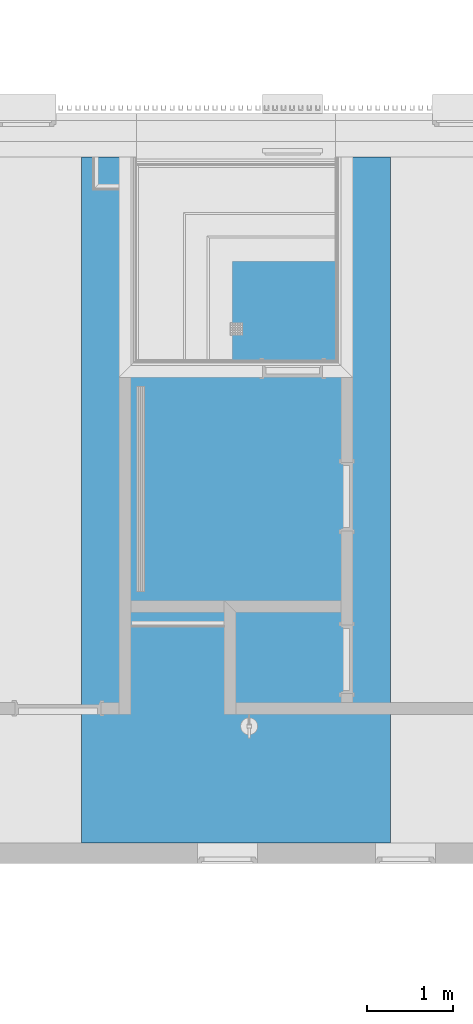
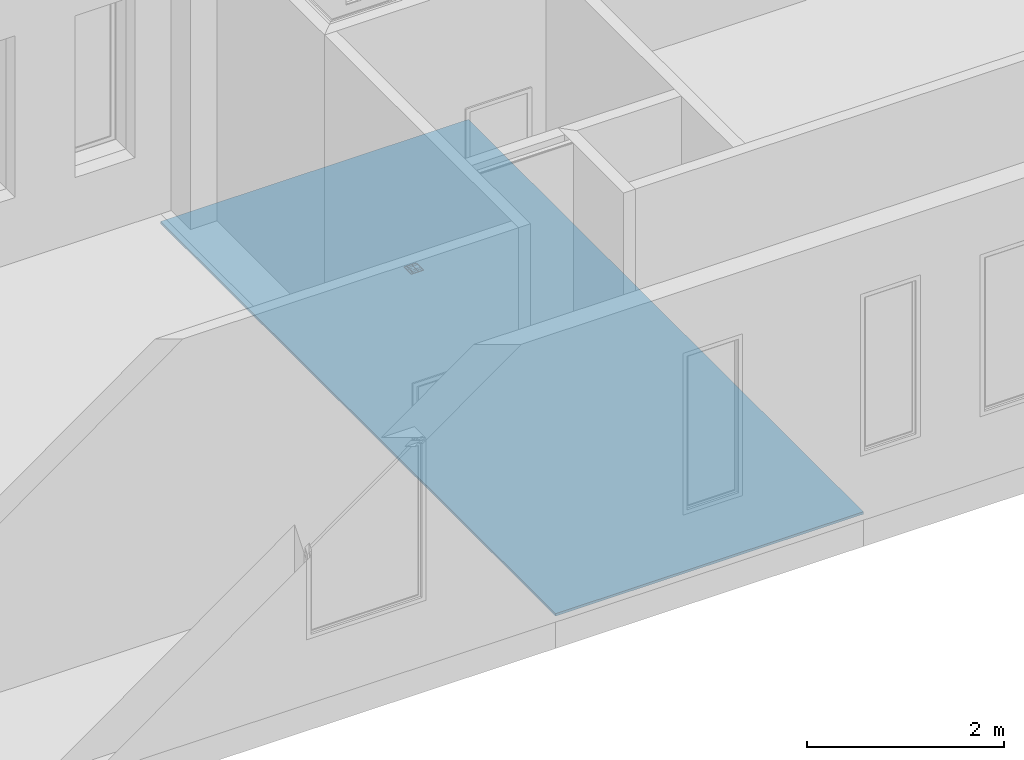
# One storey, part 63 of 100: 1 building element part, 1 element without a shape of its own.
"""IFC2X3 building model written with IfcOpenShell, lengths in millimetres."""

from ifc_helpers import new_model, entity, si_unit, converted_unit, derived_unit, money_unit, direction, frame, origin_with_axes, place, context, subcontext, project, spatial, polyline, outline, extrude, boolean, faceted_brep, material, type_object, element, aggregate, save


model = new_model("IFC2X3")

# Units and contexts
model_context = context("Model", 3, precision=0.01, world=origin_with_axes(), true_north=direction((0.0, 1.0)))
body_context = subcontext(model_context, "Body", "Model", "MODEL_VIEW")
ifc_project = project(units=[si_unit("LENGTHUNIT", "METRE", prefix="MILLI"), si_unit("AREAUNIT", "SQUARE_METRE"), si_unit("VOLUMEUNIT", "CUBIC_METRE"), converted_unit("PLANEANGLEUNIT", "DEGREE", entity("IfcPlaneAngleMeasure", 0.0174532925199), si_unit("PLANEANGLEUNIT", "RADIAN"), dimensions=[0, 0, 0, 0, 0, 0, 0]), si_unit("SOLIDANGLEUNIT", "STERADIAN"), money_unit("EUR"), converted_unit("TIMEUNIT", "Year", entity("IfcTimeMeasure", 31556926.0), si_unit("TIMEUNIT", "SECOND"), dimensions=[0, 0, 1, 0, 0, 0, 0]), si_unit("MASSUNIT", "GRAM", prefix="KILO"), si_unit("THERMODYNAMICTEMPERATUREUNIT", "DEGREE_CELSIUS"), si_unit("LUMINOUSINTENSITYUNIT", "LUMEN"), si_unit("ENERGYUNIT", "JOULE", prefix="MEGA"), derived_unit("THERMALCONDUCTANCEUNIT", [(si_unit("POWERUNIT", "WATT"), 1), (si_unit("LENGTHUNIT", "METRE"), -1), (si_unit("THERMODYNAMICTEMPERATUREUNIT", "KELVIN"), -1)]), derived_unit("SPECIFICHEATCAPACITYUNIT", [(si_unit("ENERGYUNIT", "JOULE"), 1), (si_unit("MASSUNIT", "GRAM", prefix="KILO"), -1), (si_unit("THERMODYNAMICTEMPERATUREUNIT", "KELVIN"), -1)]), derived_unit("MASSDENSITYUNIT", [(si_unit("MASSUNIT", "GRAM", prefix="KILO"), 1), (si_unit("VOLUMEUNIT", "CUBIC_METRE"), -1)])], contexts=[model_context])

# Site, building, storey
site_placement = place(None, origin_with_axes())
site = spatial("IfcSite", under=ifc_project, at=site_placement, Name="Politse- ja Piirivalveameti ning Päästeameti ühishoone", CompositionType="ELEMENT")
building_placement = place(site_placement, origin_with_axes())
building = spatial("IfcBuilding", under=site, at=building_placement, Name="Politse- ja Piirivalveameti ning Päästeameti ühishoone", CompositionType="ELEMENT")
storey_placement = place(building_placement, frame((0.0, 0.0, 3800.0), z_axis=(0.0, 0.0, 1.0), x_axis=(1.0, 0.0, 0.0)))
storey = spatial("IfcBuildingStorey", under=building, at=storey_placement, Name="Teine korrus", CompositionType="ELEMENT", Elevation=3800.0)

# Slab, building element part
slab_type = type_object("IfcSlabType", Name="VL-05_Vahelagi   400 paneel 520", PredefinedType="NOTDEFINED")
slab_placement = place(storey_placement, frame((42610.0318541, 13000.0198611, 0.0), z_axis=(0.0, 0.0, 1.0), x_axis=(1.0, 0.0, 0.0)))
slab = element("IfcSlab", 1, at=slab_placement, inside=storey, type_object=slab_type, Name="VL-05", PredefinedType="NOTDEFINED")
ifc_material = material(Name="SOJ-04_Soojustus - Mineraal Kõva")
building_element_part_placement = place(slab_placement, origin_with_axes())
building_element_part = element("IfcBuildingElementPart", 2, at=building_element_part_placement, material=ifc_material, Name="SOJ-04_Soojustus - Mineraal Kõva", context=body_context, shape_type="CSG", body=[
    boolean("DIFFERENCE", boolean("DIFFERENCE", boolean("DIFFERENCE", extrude(outline(polyline([(0.0, 0.0), (3599.96251087, 0.0), (3599.99627145, 7999.8850733), (-0.00384055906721, 7999.87354941), (0.0, 0.0)])), frame((0.0, 0.0, -120.0), z_axis=(0.0, 0.0, 1.0), x_axis=(1.0, 0.0, 0.0)), (0.0, 0.0, 1.0), 30.0), faceted_brep([(1730.20181919, 5919.88844434, -90.0), (1880.20181919, 5919.88844434, -90.0), (1880.20181919, 6069.88844434, -90.0), (1730.20181919, 6069.88844434, -90.0), (1849.70181919, 6039.38844434, -90.0), (1849.70181919, 6064.88844434, -90.0), (1875.20181919, 6064.88844434, -90.0), (1875.20181919, 6039.38844434, -90.0), (1849.70181919, 6010.38844434, -90.0), (1849.70181919, 6037.38844434, -90.0), (1875.20181919, 6037.38844434, -90.0), (1875.20181919, 6010.38844434, -90.0), (1849.70181919, 5981.38844434, -90.0), (1849.70181919, 6008.38844434, -90.0), (1875.20181919, 6008.38844434, -90.0), (1875.20181919, 5981.38844434, -90.0), (1849.70181919, 5952.38844434, -90.0), (1849.70181919, 5979.38844434, -90.0), (1875.20181919, 5979.38844434, -90.0), (1875.20181919, 5952.38844434, -90.0), (1820.70181919, 6039.38844434, -90.0), (1820.70181919, 6064.88844434, -90.0), (1847.70181919, 6064.88844434, -90.0), (1847.70181919, 6039.38844434, -90.0), (1820.70181919, 6010.38844434, -90.0), (1820.70181919, 6037.38844434, -90.0), (1847.70181919, 6037.38844434, -90.0), (1847.70181919, 6010.38844434, -90.0), (1820.70181919, 5981.38844434, -90.0), (1820.70181919, 6008.38844434, -90.0), (1847.70181919, 6008.38844434, -90.0), (1847.70181919, 5981.38844434, -90.0), (1820.70181919, 5952.38844434, -90.0), (1820.70181919, 5979.38844434, -90.0), (1847.70181919, 5979.38844434, -90.0), (1847.70181919, 5952.38844434, -90.0), (1791.70181919, 6039.38844434, -90.0), (1791.70181889, 6064.88844434, -90.0), (1818.70181919, 6064.88844434, -90.0), (1818.70181919, 6039.38844434, -90.0), (1791.70181919, 6010.38844434, -90.0), (1791.70181919, 6037.38844434, -90.0), (1818.70181919, 6037.38844434, -90.0), (1818.70181919, 6010.38844434, -90.0), (1791.70181919, 5981.38844434, -90.0), (1791.70181919, 6008.38844434, -90.0), (1818.70181919, 6008.38844434, -90.0), (1818.70181919, 5981.38844434, -90.0), (1791.70181919, 5952.38844434, -90.0), (1791.70181919, 5979.38844434, -90.0), (1818.70181919, 5979.38844434, -90.0), (1818.70181919, 5952.38844434, -90.0), (1762.70181919, 6039.38844434, -90.0), (1762.70181889, 6064.88844434, -90.0), (1789.70181919, 6064.88844434, -90.0), (1789.70181919, 6039.38844434, -90.0), (1762.70181919, 6010.38844434, -90.0), (1762.70181919, 6037.38844434, -90.0), (1789.70181919, 6037.38844434, -90.0), (1789.70181919, 6010.38844434, -90.0), (1762.70181919, 5981.38844434, -90.0), (1762.70181919, 6008.38844434, -90.0), (1789.70181919, 6008.38844434, -90.0), (1789.70181919, 5981.38844434, -90.0), (1762.70181919, 5952.38844434, -90.0), (1762.70181919, 5979.38844434, -90.0), (1789.70181919, 5979.38844434, -90.0), (1789.70181919, 5952.38844434, -90.0), (1735.20181919, 6039.38844434, -90.0), (1735.20181919, 6064.88844434, -90.0), (1760.70181919, 6064.88844434, -90.0), (1760.70181919, 6039.38844434, -90.0), (1735.20181919, 6010.38844434, -90.0), (1735.20181919, 6037.38844434, -90.0), (1760.70181919, 6037.38844434, -90.0), (1760.70181919, 6010.38844434, -90.0), (1735.20181919, 5981.38844434, -90.0), (1735.20181919, 6008.38844434, -90.0), (1760.70181919, 6008.38844434, -90.0), (1760.70181919, 5981.38844434, -90.0), (1735.20181919, 5952.38844434, -90.0), (1735.20181919, 5979.38844434, -90.0), (1760.70181919, 5979.38844434, -90.0), (1760.70181919, 5952.38844434, -90.0), (1735.20181919, 5924.88844434, -90.0), (1735.20181919, 5950.38844434, -90.0), (1760.70181919, 5950.38844434, -90.0), (1760.70181919, 5924.88844434, -90.0), (1762.70181919, 5924.88844434, -90.0), (1762.70181919, 5950.38844434, -90.0), (1789.70181919, 5950.38844434, -90.0), (1789.70181919, 5924.88844434, -90.0), (1791.70181919, 5924.88844434, -90.0), (1791.70181919, 5950.38844434, -90.0), (1818.70181919, 5950.38844434, -90.0), (1818.70181919, 5924.88844434, -90.0), (1820.70181919, 5924.88844434, -90.0), (1820.70181919, 5950.38844434, -90.0), (1847.70181919, 5950.38844434, -90.0), (1847.70181919, 5924.88844434, -90.0), (1849.70181919, 5924.88844434, -90.0), (1849.70181919, 5950.38844434, -90.0), (1875.20181919, 5950.38844434, -90.0), (1875.20181919, 5924.88844434, -90.0), (1730.20181919, 5919.88844434, -100.0), (1880.20181919, 5919.88844434, -100.0), (1880.20181919, 6069.88844434, -100.0), (1730.20181919, 6069.88844434, -100.0), (1849.70181919, 6039.38844434, -100.0), (1849.70181919, 6064.88844434, -100.0), (1875.20181919, 6064.88844434, -100.0), (1875.20181919, 6039.38844434, -100.0), (1849.70181919, 6010.38844434, -100.0), (1849.70181919, 6037.38844434, -100.0), (1875.20181919, 6037.38844434, -100.0), (1875.20181919, 6010.38844434, -100.0), (1849.70181919, 5981.38844434, -100.0), (1849.70181919, 6008.38844434, -100.0), (1875.20181919, 6008.38844434, -100.0), (1875.20181919, 5981.38844434, -100.0), (1849.70181919, 5952.38844434, -100.0), (1849.70181919, 5979.38844434, -100.0), (1875.20181919, 5979.38844434, -100.0), (1875.20181919, 5952.38844434, -100.0), (1820.70181919, 6039.38844434, -100.0), (1820.70181919, 6064.88844434, -100.0), (1847.70181919, 6064.88844434, -100.0), (1847.70181919, 6039.38844434, -100.0), (1820.70181919, 6010.38844434, -100.0), (1820.70181919, 6037.38844434, -100.0), (1847.70181919, 6037.38844434, -100.0), (1847.70181919, 6010.38844434, -100.0), (1820.70181919, 5981.38844434, -100.0), (1820.70181919, 6008.38844434, -100.0), (1847.70181919, 6008.38844434, -100.0), (1847.70181919, 5981.38844434, -100.0), (1820.70181919, 5952.38844434, -100.0), (1820.70181919, 5979.38844434, -100.0), (1847.70181919, 5979.38844434, -100.0), (1847.70181919, 5952.38844434, -100.0), (1791.70181919, 6039.38844434, -100.0), (1791.70181889, 6064.88844434, -100.0), (1818.70181919, 6064.88844434, -100.0), (1818.70181919, 6039.38844434, -100.0), (1791.70181919, 6010.38844434, -100.0), (1791.70181919, 6037.38844434, -100.0), (1818.70181919, 6037.38844434, -100.0), (1818.70181919, 6010.38844434, -100.0), (1791.70181919, 5981.38844434, -100.0), (1791.70181919, 6008.38844434, -100.0), (1818.70181919, 6008.38844434, -100.0), (1818.70181919, 5981.38844434, -100.0), (1791.70181919, 5952.38844434, -100.0), (1791.70181919, 5979.38844434, -100.0), (1818.70181919, 5979.38844434, -100.0), (1818.70181919, 5952.38844434, -100.0), (1762.70181919, 6039.38844434, -100.0), (1762.70181889, 6064.88844434, -100.0), (1789.70181919, 6064.88844434, -100.0), (1789.70181919, 6039.38844434, -100.0), (1762.70181919, 6010.38844434, -100.0), (1762.70181919, 6037.38844434, -100.0), (1789.70181919, 6037.38844434, -100.0), (1789.70181919, 6010.38844434, -100.0), (1762.70181919, 5981.38844434, -100.0), (1762.70181919, 6008.38844434, -100.0), (1789.70181919, 6008.38844434, -100.0), (1789.70181919, 5981.38844434, -100.0), (1762.70181919, 5952.38844434, -100.0), (1762.70181919, 5979.38844434, -100.0), (1789.70181919, 5979.38844434, -100.0), (1789.70181919, 5952.38844434, -100.0), (1735.20181919, 6039.38844434, -100.0), (1735.20181919, 6064.88844434, -100.0), (1760.70181919, 6064.88844434, -100.0), (1760.70181919, 6039.38844434, -100.0), (1735.20181919, 6010.38844434, -100.0), (1735.20181919, 6037.38844434, -100.0), (1760.70181919, 6037.38844434, -100.0), (1760.70181919, 6010.38844434, -100.0), (1735.20181919, 5981.38844434, -100.0), (1735.20181919, 6008.38844434, -100.0), (1760.70181919, 6008.38844434, -100.0), (1760.70181919, 5981.38844434, -100.0), (1735.20181919, 5952.38844434, -100.0), (1735.20181919, 5979.38844434, -100.0), (1760.70181919, 5979.38844434, -100.0), (1760.70181919, 5952.38844434, -100.0), (1735.20181919, 5924.88844434, -100.0), (1735.20181919, 5950.38844434, -100.0), (1760.70181919, 5950.38844434, -100.0), (1760.70181919, 5924.88844434, -100.0), (1762.70181919, 5924.88844434, -100.0), (1762.70181919, 5950.38844434, -100.0), (1789.70181919, 5950.38844434, -100.0), (1789.70181919, 5924.88844434, -100.0), (1791.70181919, 5924.88844434, -100.0), (1791.70181919, 5950.38844434, -100.0), (1818.70181919, 5950.38844434, -100.0), (1818.70181919, 5924.88844434, -100.0), (1820.70181919, 5924.88844434, -100.0), (1820.70181919, 5950.38844434, -100.0), (1847.70181919, 5950.38844434, -100.0), (1847.70181919, 5924.88844434, -100.0), (1849.70181919, 5924.88844434, -100.0), (1849.70181919, 5950.38844434, -100.0), (1875.20181919, 5950.38844434, -100.0), (1875.20181919, 5924.88844434, -100.0)], [[[0, 1, 2, 3], [4, 5, 6, 7], [8, 9, 10, 11], [12, 13, 14, 15], [16, 17, 18, 19], [20, 21, 22, 23], [24, 25, 26, 27], [28, 29, 30, 31], [32, 33, 34, 35], [36, 37, 38, 39], [40, 41, 42, 43], [44, 45, 46, 47], [48, 49, 50, 51], [52, 53, 54, 55], [56, 57, 58, 59], [60, 61, 62, 63], [64, 65, 66, 67], [68, 69, 70, 71], [72, 73, 74, 75], [76, 77, 78, 79], [80, 81, 82, 83], [84, 85, 86, 87], [88, 89, 90, 91], [92, 93, 94, 95], [96, 97, 98, 99], [100, 101, 102, 103]], [[1, 0, 104, 105]], [[2, 1, 105, 106]], [[3, 2, 106, 107]], [[0, 3, 107, 104]], [[5, 4, 108, 109]], [[6, 5, 109, 110]], [[7, 6, 110, 111]], [[4, 7, 111, 108]], [[9, 8, 112, 113]], [[10, 9, 113, 114]], [[11, 10, 114, 115]], [[8, 11, 115, 112]], [[13, 12, 116, 117]], [[14, 13, 117, 118]], [[15, 14, 118, 119]], [[12, 15, 119, 116]], [[17, 16, 120, 121]], [[18, 17, 121, 122]], [[19, 18, 122, 123]], [[16, 19, 123, 120]], [[21, 20, 124, 125]], [[22, 21, 125, 126]], [[23, 22, 126, 127]], [[20, 23, 127, 124]], [[25, 24, 128, 129]], [[26, 25, 129, 130]], [[27, 26, 130, 131]], [[24, 27, 131, 128]], [[29, 28, 132, 133]], [[30, 29, 133, 134]], [[31, 30, 134, 135]], [[28, 31, 135, 132]], [[33, 32, 136, 137]], [[34, 33, 137, 138]], [[35, 34, 138, 139]], [[32, 35, 139, 136]], [[37, 36, 140, 141]], [[38, 37, 141, 142]], [[39, 38, 142, 143]], [[36, 39, 143, 140]], [[41, 40, 144, 145]], [[42, 41, 145, 146]], [[43, 42, 146, 147]], [[40, 43, 147, 144]], [[45, 44, 148, 149]], [[46, 45, 149, 150]], [[47, 46, 150, 151]], [[44, 47, 151, 148]], [[49, 48, 152, 153]], [[50, 49, 153, 154]], [[51, 50, 154, 155]], [[48, 51, 155, 152]], [[53, 52, 156, 157]], [[54, 53, 157, 158]], [[55, 54, 158, 159]], [[52, 55, 159, 156]], [[57, 56, 160, 161]], [[58, 57, 161, 162]], [[59, 58, 162, 163]], [[56, 59, 163, 160]], [[61, 60, 164, 165]], [[62, 61, 165, 166]], [[63, 62, 166, 167]], [[60, 63, 167, 164]], [[65, 64, 168, 169]], [[66, 65, 169, 170]], [[67, 66, 170, 171]], [[64, 67, 171, 168]], [[69, 68, 172, 173]], [[70, 69, 173, 174]], [[71, 70, 174, 175]], [[68, 71, 175, 172]], [[73, 72, 176, 177]], [[74, 73, 177, 178]], [[75, 74, 178, 179]], [[72, 75, 179, 176]], [[77, 76, 180, 181]], [[78, 77, 181, 182]], [[79, 78, 182, 183]], [[76, 79, 183, 180]], [[81, 80, 184, 185]], [[82, 81, 185, 186]], [[83, 82, 186, 187]], [[80, 83, 187, 184]], [[85, 84, 188, 189]], [[86, 85, 189, 190]], [[87, 86, 190, 191]], [[84, 87, 191, 188]], [[89, 88, 192, 193]], [[90, 89, 193, 194]], [[91, 90, 194, 195]], [[88, 91, 195, 192]], [[93, 92, 196, 197]], [[94, 93, 197, 198]], [[95, 94, 198, 199]], [[92, 95, 199, 196]], [[97, 96, 200, 201]], [[98, 97, 201, 202]], [[99, 98, 202, 203]], [[96, 99, 203, 200]], [[101, 100, 204, 205]], [[102, 101, 205, 206]], [[103, 102, 206, 207]], [[100, 103, 207, 204]], [[107, 173, 172, 177, 176, 181, 180, 185, 184, 189, 188, 191, 192, 195, 196, 199, 200, 203, 204, 207, 206, 123, 122, 119, 118, 115, 114, 111, 110, 106, 105, 104]], [[173, 107, 106, 110, 109, 108, 113, 112, 117, 116, 121, 120, 205, 204, 203, 202, 139, 138, 135, 134, 131, 130, 127, 126, 125, 124, 129, 128, 133, 132, 137, 136, 201, 200, 199, 198, 155, 154, 151, 150, 147, 146, 143, 142, 141, 140, 145, 144, 149, 148, 153, 152, 197, 196, 195, 194, 171, 170, 167, 166, 163, 162, 159, 158, 157, 156, 161, 160, 165, 164, 169, 168, 193, 192, 191, 190, 187, 186, 183, 182, 179, 178, 175, 174]], [[114, 113, 108, 111]], [[117, 112, 115, 118]], [[122, 121, 116, 119]], [[206, 205, 120, 123]], [[130, 129, 124, 127]], [[133, 128, 131, 134]], [[138, 137, 132, 135]], [[201, 136, 139, 202]], [[145, 140, 143, 146]], [[150, 149, 144, 147]], [[154, 153, 148, 151]], [[197, 152, 155, 198]], [[159, 162, 161, 156]], [[166, 165, 160, 163]], [[170, 169, 164, 167]], [[171, 194, 193, 168]], [[175, 178, 177, 172]], [[179, 182, 181, 176]], [[183, 186, 185, 180]], [[187, 190, 189, 184]]])), faceted_brep([(638.379615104, 2928.96744272, 0.0), (738.379615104, 2928.96744272, 0.0), (738.379615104, 5328.96744272, 0.0), (638.379615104, 5328.96744272, 0.0), (638.379615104, 2928.96744272, -50.0), (738.379615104, 2928.96744272, -50.0), (738.379615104, 5328.96744272, -50.0), (638.379615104, 5328.96744272, -50.0), (643.379615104, 5323.96744272, -50.0), (643.379615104, 4129.96744272, -50.0), (643.379615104, 4127.96744272, -50.0), (643.379615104, 2933.96744272, -50.0), (663.629615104, 2933.96744272, -50.0), (665.629615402, 2933.96744272, -50.0), (687.379615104, 2933.96744272, -50.0), (689.379615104, 2933.96744272, -50.0), (711.129615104, 2933.96744272, -50.0), (713.129615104, 2933.96744272, -50.0), (733.379615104, 2933.96744272, -50.0), (733.379615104, 4127.96744272, -50.0), (733.379615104, 4129.96744272, -50.0), (733.379615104, 5323.96744272, -50.0), (713.129615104, 5323.96744272, -50.0), (713.129615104, 4129.96744272, -50.0), (713.129615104, 4127.96744272, -50.0), (711.129615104, 4127.96744272, -50.0), (711.129615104, 4129.96744272, -50.0), (711.129615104, 5323.96744272, -50.0), (689.379615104, 5323.96744272, -50.0), (689.379615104, 4129.96744272, -50.0), (689.379615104, 4127.96744272, -50.0), (687.379615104, 4127.96744272, -50.0), (687.379615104, 4129.96744272, -50.0), (687.379615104, 5323.96744272, -50.0), (665.629615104, 5323.96744272, -50.0), (665.629615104, 4129.96744272, -50.0), (665.629615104, 4127.96744272, -50.0), (663.629615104, 4127.96744272, -50.0), (663.629615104, 4129.96744272, -50.0), (663.629615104, 5323.96744272, -50.0), (643.379615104, 5323.96744272, -31.35), (643.379615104, 4129.96744272, -31.35), (643.379615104, 4127.96744272, -31.35), (643.379615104, 2933.96744272, -31.35), (663.629615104, 2933.96744272, -31.35), (665.629615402, 2933.96744272, -31.35), (687.379615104, 2933.96744272, -31.35), (689.379615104, 2933.96744272, -31.35), (711.129615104, 2933.96744272, -31.35), (713.129615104, 2933.96744272, -31.35), (733.379615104, 2933.96744272, -31.35), (733.379615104, 4127.96744272, -31.35), (733.379615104, 4129.96744272, -31.35), (733.379615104, 5323.96744272, -31.35), (713.129615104, 5323.96744272, -31.35), (713.129615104, 4129.96744272, -31.35), (713.129615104, 4127.96744272, -31.35), (711.129615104, 4127.96744272, -31.35), (711.129615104, 4129.96744272, -31.35), (711.129615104, 5323.96744272, -31.35), (689.379615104, 5323.96744272, -31.35), (689.379615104, 4129.96744272, -31.35), (689.379615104, 4127.96744272, -31.35), (687.379615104, 4127.96744272, -31.35), (687.379615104, 4129.96744272, -31.35), (687.379615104, 5323.96744272, -31.35), (665.629615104, 5323.96744272, -31.35), (665.629615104, 4129.96744272, -31.35), (665.629615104, 4127.96744272, -31.35), (663.629615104, 4127.96744272, -31.35), (663.629615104, 4129.96744272, -31.35), (663.629615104, 5323.96744272, -31.35)], [[[0, 1, 2, 3]], [[1, 0, 4, 5]], [[2, 1, 5, 6]], [[3, 2, 6, 7]], [[0, 3, 7, 4]], [[7, 8, 9, 10, 11, 12, 13, 14, 15, 16, 17, 18, 19, 20, 21, 6, 5, 4]], [[8, 7, 6, 21, 22, 23, 24, 17, 16, 25, 26, 27, 28, 29, 30, 15, 14, 31, 32, 33, 34, 35, 36, 13, 12, 37, 38, 39]], [[8, 40, 41, 9]], [[10, 9, 38, 37]], [[10, 42, 43, 11]], [[11, 43, 44, 12]], [[13, 45, 46, 14]], [[15, 47, 48, 16]], [[17, 49, 50, 18]], [[18, 50, 51, 19]], [[24, 23, 20, 19]], [[20, 52, 53, 21]], [[54, 22, 21, 53]], [[22, 54, 55, 23]], [[49, 17, 24, 56]], [[16, 48, 57, 25]], [[25, 30, 29, 26]], [[26, 58, 59, 27]], [[60, 28, 27, 59]], [[28, 60, 61, 29]], [[47, 15, 30, 62]], [[63, 31, 14, 46]], [[36, 35, 32, 31]], [[32, 64, 65, 33]], [[66, 34, 33, 65]], [[34, 66, 67, 35]], [[36, 68, 45, 13]], [[69, 37, 12, 44]], [[38, 70, 71, 39]], [[40, 8, 39, 71]], [[41, 40, 71, 70]], [[9, 41, 70, 38]], [[42, 10, 37, 69]], [[43, 42, 69, 44]], [[68, 63, 46, 45]], [[48, 47, 62, 57]], [[50, 49, 56, 51]], [[56, 24, 19, 51]], [[23, 55, 52, 20]], [[52, 55, 54, 53]], [[62, 30, 25, 57]], [[29, 61, 58, 26]], [[61, 60, 59, 58]], [[68, 36, 31, 63]], [[35, 67, 64, 32]], [[64, 67, 66, 65]]])), faceted_brep([(1730.20181919, 5919.88844434, -90.0), (1730.20181919, 6069.88844434, -90.0), (1880.20181919, 6069.88844434, -90.0), (1880.20181919, 5919.88844434, -90.0), (1849.70181919, 6039.38844434, -90.0), (1875.20181919, 6039.38844434, -90.0), (1875.20181919, 6064.88844434, -90.0), (1849.70181919, 6064.88844434, -90.0), (1849.70181919, 6010.38844434, -90.0), (1875.20181919, 6010.38844434, -90.0), (1875.20181919, 6037.38844434, -90.0), (1849.70181919, 6037.38844434, -90.0), (1849.70181919, 5981.38844434, -90.0), (1875.20181919, 5981.38844434, -90.0), (1875.20181919, 6008.38844434, -90.0), (1849.70181919, 6008.38844434, -90.0), (1849.70181919, 5952.38844434, -90.0), (1875.20181919, 5952.38844434, -90.0), (1875.20181919, 5979.38844434, -90.0), (1849.70181919, 5979.38844434, -90.0), (1820.70181919, 6039.38844434, -90.0), (1847.70181919, 6039.38844434, -90.0), (1847.70181919, 6064.88844434, -90.0), (1820.70181919, 6064.88844434, -90.0), (1820.70181919, 6010.38844434, -90.0), (1847.70181919, 6010.38844434, -90.0), (1847.70181919, 6037.38844434, -90.0), (1820.70181919, 6037.38844434, -90.0), (1820.70181919, 5981.38844434, -90.0), (1847.70181919, 5981.38844434, -90.0), (1847.70181919, 6008.38844434, -90.0), (1820.70181919, 6008.38844434, -90.0), (1820.70181919, 5952.38844434, -90.0), (1847.70181919, 5952.38844434, -90.0), (1847.70181919, 5979.38844434, -90.0), (1820.70181919, 5979.38844434, -90.0), (1791.70181919, 6039.38844434, -90.0), (1818.70181919, 6039.38844434, -90.0), (1818.70181919, 6064.88844434, -90.0), (1791.70181889, 6064.88844434, -90.0), (1791.70181919, 6010.38844434, -90.0), (1818.70181919, 6010.38844434, -90.0), (1818.70181919, 6037.38844434, -90.0), (1791.70181919, 6037.38844434, -90.0), (1791.70181919, 5981.38844434, -90.0), (1818.70181919, 5981.38844434, -90.0), (1818.70181919, 6008.38844434, -90.0), (1791.70181919, 6008.38844434, -90.0), (1791.70181919, 5952.38844434, -90.0), (1818.70181919, 5952.38844434, -90.0), (1818.70181919, 5979.38844434, -90.0), (1791.70181919, 5979.38844434, -90.0), (1762.70181919, 6039.38844434, -90.0), (1789.70181919, 6039.38844434, -90.0), (1789.70181919, 6064.88844434, -90.0), (1762.70181889, 6064.88844434, -90.0), (1762.70181919, 6010.38844434, -90.0), (1789.70181919, 6010.38844434, -90.0), (1789.70181919, 6037.38844434, -90.0), (1762.70181919, 6037.38844434, -90.0), (1762.70181919, 5981.38844434, -90.0), (1789.70181919, 5981.38844434, -90.0), (1789.70181919, 6008.38844434, -90.0), (1762.70181919, 6008.38844434, -90.0), (1762.70181919, 5952.38844434, -90.0), (1789.70181919, 5952.38844434, -90.0), (1789.70181919, 5979.38844434, -90.0), (1762.70181919, 5979.38844434, -90.0), (1735.20181919, 6039.38844434, -90.0), (1760.70181919, 6039.38844434, -90.0), (1760.70181919, 6064.88844434, -90.0), (1735.20181919, 6064.88844434, -90.0), (1735.20181919, 6010.38844434, -90.0), (1760.70181919, 6010.38844434, -90.0), (1760.70181919, 6037.38844434, -90.0), (1735.20181919, 6037.38844434, -90.0), (1735.20181919, 5981.38844434, -90.0), (1760.70181919, 5981.38844434, -90.0), (1760.70181919, 6008.38844434, -90.0), (1735.20181919, 6008.38844434, -90.0), (1735.20181919, 5952.38844434, -90.0), (1760.70181919, 5952.38844434, -90.0), (1760.70181919, 5979.38844434, -90.0), (1735.20181919, 5979.38844434, -90.0), (1735.20181919, 5924.88844434, -90.0), (1760.70181919, 5924.88844434, -90.0), (1760.70181919, 5950.38844434, -90.0), (1735.20181919, 5950.38844434, -90.0), (1762.70181919, 5924.88844434, -90.0), (1789.70181919, 5924.88844434, -90.0), (1789.70181919, 5950.38844434, -90.0), (1762.70181919, 5950.38844434, -90.0), (1791.70181919, 5924.88844434, -90.0), (1818.70181919, 5924.88844434, -90.0), (1818.70181919, 5950.38844434, -90.0), (1791.70181919, 5950.38844434, -90.0), (1820.70181919, 5924.88844434, -90.0), (1847.70181919, 5924.88844434, -90.0), (1847.70181919, 5950.38844434, -90.0), (1820.70181919, 5950.38844434, -90.0), (1849.70181919, 5924.88844434, -90.0), (1875.20181919, 5924.88844434, -90.0), (1875.20181919, 5950.38844434, -90.0), (1849.70181919, 5950.38844434, -90.0), (1730.20181919, 5919.88844434, 0.0), (1730.20181919, 6069.88844434, 0.0), (1880.20181919, 6069.88844434, 0.0), (1880.20181919, 5919.88844434, 0.0), (1849.70181919, 6039.38844434, -56.35), (1875.20181919, 6039.38844434, -56.35), (1875.20181919, 6064.88844434, -56.35), (1849.70181919, 6064.88844434, -56.35), (1849.70181919, 6010.38844434, -56.35), (1875.20181919, 6010.38844434, -56.35), (1875.20181919, 6037.38844434, -56.35), (1849.70181919, 6037.38844434, -56.35), (1849.70181919, 5981.38844434, -56.35), (1875.20181919, 5981.38844434, -56.35), (1875.20181919, 6008.38844434, -56.35), (1849.70181919, 6008.38844434, -56.35), (1849.70181919, 5952.38844434, -56.35), (1875.20181919, 5952.38844434, -56.35), (1875.20181919, 5979.38844434, -56.35), (1849.70181919, 5979.38844434, -56.35), (1820.70181919, 6039.38844434, -56.35), (1847.70181919, 6039.38844434, -56.35), (1847.70181919, 6064.88844434, -56.35), (1820.70181919, 6064.88844434, -56.35), (1820.70181919, 6010.38844434, -56.35), (1847.70181919, 6010.38844434, -56.35), (1847.70181919, 6037.38844434, -56.35), (1820.70181919, 6037.38844434, -56.35), (1820.70181919, 5981.38844434, -56.35), (1847.70181919, 5981.38844434, -56.35), (1847.70181919, 6008.38844434, -56.35), (1820.70181919, 6008.38844434, -56.35), (1820.70181919, 5952.38844434, -56.35), (1847.70181919, 5952.38844434, -56.35), (1847.70181919, 5979.38844434, -56.35), (1820.70181919, 5979.38844434, -56.35), (1791.70181919, 6039.38844434, -56.35), (1818.70181919, 6039.38844434, -56.35), (1818.70181919, 6064.88844434, -56.35), (1791.70181889, 6064.88844434, -56.35), (1791.70181919, 6010.38844434, -56.35), (1818.70181919, 6010.38844434, -56.35), (1818.70181919, 6037.38844434, -56.35), (1791.70181919, 6037.38844434, -56.35), (1791.70181919, 5981.38844434, -56.35), (1818.70181919, 5981.38844434, -56.35), (1818.70181919, 6008.38844434, -56.35), (1791.70181919, 6008.38844434, -56.35), (1791.70181919, 5952.38844434, -56.35), (1818.70181919, 5952.38844434, -56.35), (1818.70181919, 5979.38844434, -56.35), (1791.70181919, 5979.38844434, -56.35), (1762.70181919, 6039.38844434, -56.35), (1789.70181919, 6039.38844434, -56.35), (1789.70181919, 6064.88844434, -56.35), (1762.70181889, 6064.88844434, -56.35), (1762.70181919, 6010.38844434, -56.35), (1789.70181919, 6010.38844434, -56.35), (1789.70181919, 6037.38844434, -56.35), (1762.70181919, 6037.38844434, -56.35), (1762.70181919, 5981.38844434, -56.35), (1789.70181919, 5981.38844434, -56.35), (1789.70181919, 6008.38844434, -56.35), (1762.70181919, 6008.38844434, -56.35), (1762.70181919, 5952.38844434, -56.35), (1789.70181919, 5952.38844434, -56.35), (1789.70181919, 5979.38844434, -56.35), (1762.70181919, 5979.38844434, -56.35), (1735.20181919, 6039.38844434, -56.35), (1760.70181919, 6039.38844434, -56.35), (1760.70181919, 6064.88844434, -56.35), (1735.20181919, 6064.88844434, -56.35), (1735.20181919, 6010.38844434, -56.35), (1760.70181919, 6010.38844434, -56.35), (1760.70181919, 6037.38844434, -56.35), (1735.20181919, 6037.38844434, -56.35), (1735.20181919, 5981.38844434, -56.35), (1760.70181919, 5981.38844434, -56.35), (1760.70181919, 6008.38844434, -56.35), (1735.20181919, 6008.38844434, -56.35), (1735.20181919, 5952.38844434, -56.35), (1760.70181919, 5952.38844434, -56.35), (1760.70181919, 5979.38844434, -56.35), (1735.20181919, 5979.38844434, -56.35), (1735.20181919, 5924.88844434, -56.35), (1760.70181919, 5924.88844434, -56.35), (1760.70181919, 5950.38844434, -56.35), (1735.20181919, 5950.38844434, -56.35), (1762.70181919, 5924.88844434, -56.35), (1789.70181919, 5924.88844434, -56.35), (1789.70181919, 5950.38844434, -56.35), (1762.70181919, 5950.38844434, -56.35), (1791.70181919, 5924.88844434, -56.35), (1818.70181919, 5924.88844434, -56.35), (1818.70181919, 5950.38844434, -56.35), (1791.70181919, 5950.38844434, -56.35), (1820.70181919, 5924.88844434, -56.35), (1847.70181919, 5924.88844434, -56.35), (1847.70181919, 5950.38844434, -56.35), (1820.70181919, 5950.38844434, -56.35), (1849.70181919, 5924.88844434, -56.35), (1875.20181919, 5924.88844434, -56.35), (1875.20181919, 5950.38844434, -56.35), (1849.70181919, 5950.38844434, -56.35)], [[[0, 1, 2, 3], [4, 5, 6, 7], [8, 9, 10, 11], [12, 13, 14, 15], [16, 17, 18, 19], [20, 21, 22, 23], [24, 25, 26, 27], [28, 29, 30, 31], [32, 33, 34, 35], [36, 37, 38, 39], [40, 41, 42, 43], [44, 45, 46, 47], [48, 49, 50, 51], [52, 53, 54, 55], [56, 57, 58, 59], [60, 61, 62, 63], [64, 65, 66, 67], [68, 69, 70, 71], [72, 73, 74, 75], [76, 77, 78, 79], [80, 81, 82, 83], [84, 85, 86, 87], [88, 89, 90, 91], [92, 93, 94, 95], [96, 97, 98, 99], [100, 101, 102, 103]], [[104, 105, 1, 0]], [[105, 106, 2, 1]], [[106, 107, 3, 2]], [[107, 104, 0, 3]], [[5, 4, 108, 109]], [[6, 5, 109, 110]], [[7, 6, 110, 111]], [[4, 7, 111, 108]], [[9, 8, 112, 113]], [[10, 9, 113, 114]], [[11, 10, 114, 115]], [[8, 11, 115, 112]], [[13, 12, 116, 117]], [[14, 13, 117, 118]], [[15, 14, 118, 119]], [[12, 15, 119, 116]], [[17, 16, 120, 121]], [[18, 17, 121, 122]], [[19, 18, 122, 123]], [[16, 19, 123, 120]], [[21, 20, 124, 125]], [[22, 21, 125, 126]], [[23, 22, 126, 127]], [[20, 23, 127, 124]], [[25, 24, 128, 129]], [[26, 25, 129, 130]], [[27, 26, 130, 131]], [[24, 27, 131, 128]], [[29, 28, 132, 133]], [[30, 29, 133, 134]], [[31, 30, 134, 135]], [[28, 31, 135, 132]], [[33, 32, 136, 137]], [[34, 33, 137, 138]], [[35, 34, 138, 139]], [[32, 35, 139, 136]], [[37, 36, 140, 141]], [[38, 37, 141, 142]], [[39, 38, 142, 143]], [[36, 39, 143, 140]], [[41, 40, 144, 145]], [[42, 41, 145, 146]], [[43, 42, 146, 147]], [[40, 43, 147, 144]], [[45, 44, 148, 149]], [[46, 45, 149, 150]], [[47, 46, 150, 151]], [[44, 47, 151, 148]], [[49, 48, 152, 153]], [[50, 49, 153, 154]], [[51, 50, 154, 155]], [[48, 51, 155, 152]], [[53, 52, 156, 157]], [[54, 53, 157, 158]], [[55, 54, 158, 159]], [[52, 55, 159, 156]], [[57, 56, 160, 161]], [[58, 57, 161, 162]], [[59, 58, 162, 163]], [[56, 59, 163, 160]], [[61, 60, 164, 165]], [[62, 61, 165, 166]], [[63, 62, 166, 167]], [[60, 63, 167, 164]], [[65, 64, 168, 169]], [[66, 65, 169, 170]], [[67, 66, 170, 171]], [[64, 67, 171, 168]], [[69, 68, 172, 173]], [[70, 69, 173, 174]], [[71, 70, 174, 175]], [[68, 71, 175, 172]], [[73, 72, 176, 177]], [[74, 73, 177, 178]], [[75, 74, 178, 179]], [[72, 75, 179, 176]], [[77, 76, 180, 181]], [[78, 77, 181, 182]], [[79, 78, 182, 183]], [[76, 79, 183, 180]], [[81, 80, 184, 185]], [[82, 81, 185, 186]], [[83, 82, 186, 187]], [[80, 83, 187, 184]], [[85, 84, 188, 189]], [[86, 85, 189, 190]], [[87, 86, 190, 191]], [[84, 87, 191, 188]], [[89, 88, 192, 193]], [[90, 89, 193, 194]], [[91, 90, 194, 195]], [[88, 91, 195, 192]], [[93, 92, 196, 197]], [[94, 93, 197, 198]], [[95, 94, 198, 199]], [[92, 95, 199, 196]], [[97, 96, 200, 201]], [[98, 97, 201, 202]], [[99, 98, 202, 203]], [[96, 99, 203, 200]], [[101, 100, 204, 205]], [[102, 101, 205, 206]], [[103, 102, 206, 207]], [[100, 103, 207, 204]], [[104, 107, 106, 105]], [[110, 109, 108, 111]], [[113, 112, 115, 114]], [[117, 116, 119, 118]], [[122, 121, 120, 123]], [[125, 124, 127, 126]], [[128, 131, 130, 129]], [[133, 132, 135, 134]], [[138, 137, 136, 139]], [[141, 140, 143, 142]], [[145, 144, 147, 146]], [[148, 151, 150, 149]], [[152, 155, 154, 153]], [[157, 156, 159, 158]], [[162, 161, 160, 163]], [[165, 164, 167, 166]], [[168, 171, 170, 169]], [[173, 172, 175, 174]], [[176, 179, 178, 177]], [[180, 183, 182, 181]], [[184, 187, 186, 185]], [[189, 188, 191, 190]], [[192, 195, 194, 193]], [[198, 197, 196, 199]], [[202, 201, 200, 203]], [[206, 205, 204, 207]]])),
])
aggregate(slab, [building_element_part])

save(model, "model.ifc")
